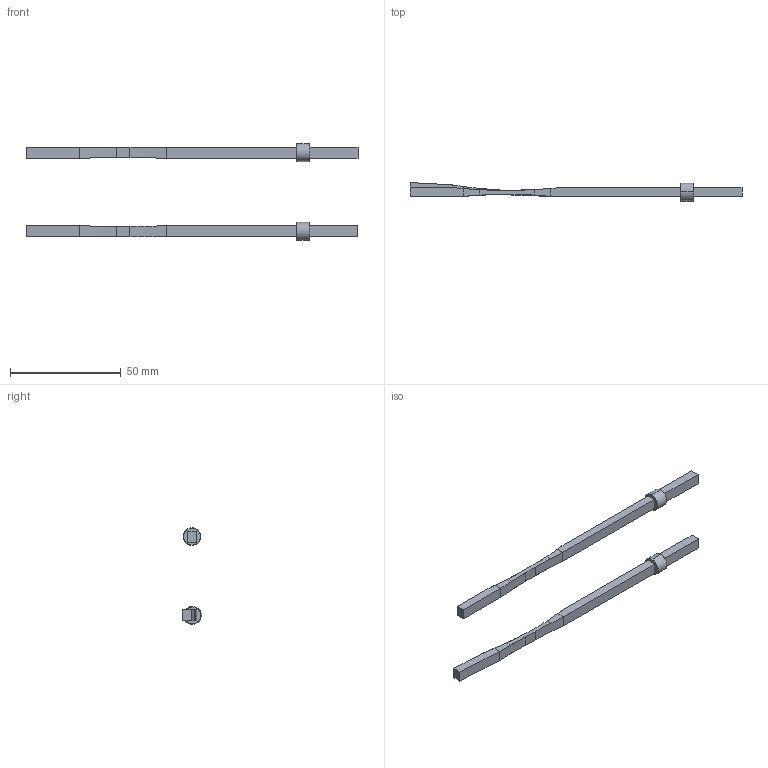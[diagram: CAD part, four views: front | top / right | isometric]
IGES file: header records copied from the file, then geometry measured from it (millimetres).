
Start section: START RECORD GO HERE.
Global section: file name: pf054150.igs; native system: DASSAULT SYSTEMES CATIA V5 R20 - www.3ds.com; preprocessor: CATIA Version 5 Release 20 ; author: Utente; organization: NB04-ASUS; date: 20201103.213831; units: millimetre
Bounding box: 150.02 x 8.48 x 43.53 mm (x, y, z)
Surface area: 5801.5 mm2 (no closed solid volume)
Topology: 0 solids, 0 shells, 74 faces, 372 edges, 368 vertices
Faces by surface type: plane 40, revolution 34
